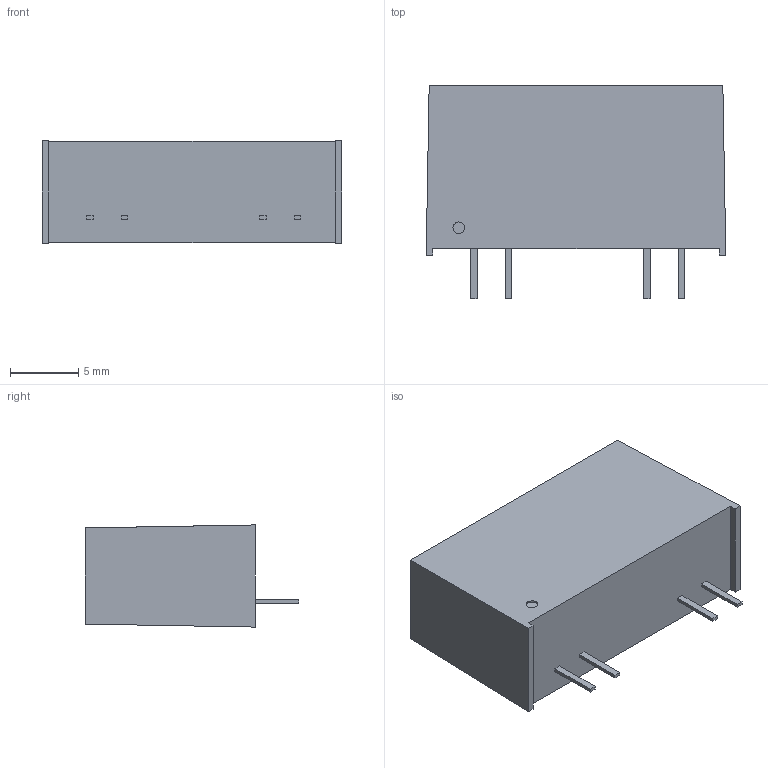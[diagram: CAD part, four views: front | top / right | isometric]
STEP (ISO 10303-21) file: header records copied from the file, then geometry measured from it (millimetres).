
FILE_DESCRIPTION (( 'STEP AP214' ), '1' );
FILE_NAME ('MAEU01.STEP', '2024-03-01T10:12:14', ( '' ), ( '' ), 'SwSTEP 2.0', 'SolidWorks 2021', '' );
FILE_SCHEMA (( 'AUTOMOTIVE_DESIGN' ));
Length unit declared in the file: millimetre
Products named in the file (1): MAEU01
Bounding box: 22 x 15.7 x 7.5 mm (x, y, z)
Volume: 1906 mm3; surface area: 1052.6 mm2
Topology: 1 solids, 1 shells, 33 faces, 78 edges, 52 vertices
Faces by surface type: plane 31, cylinder 2
Entity records: 970 total; most frequent: CARTESIAN_POINT 164, ORIENTED_EDGE 156, DIRECTION 150, EDGE_CURVE 78, LINE 74, VECTOR 74, VERTEX_POINT 52, AXIS2_PLACEMENT_3D 38
